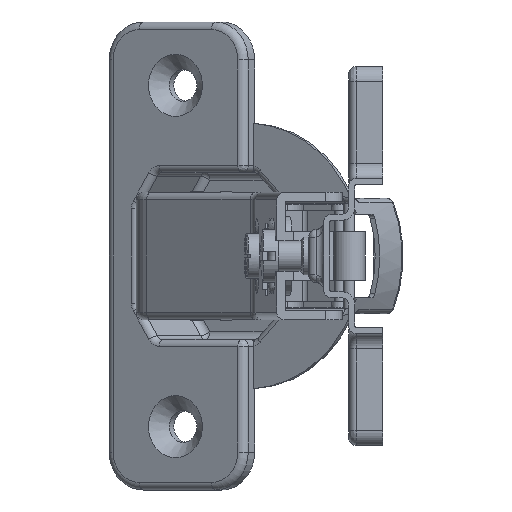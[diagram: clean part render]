
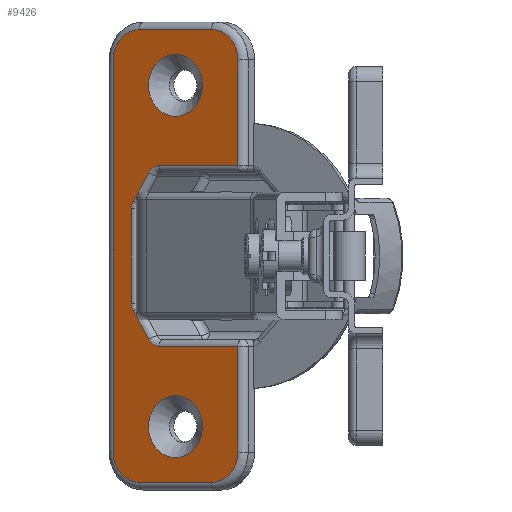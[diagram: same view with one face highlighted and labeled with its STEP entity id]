
A CAD part, left-side view. The second image highlights one B-rep face of the part: STEP entity #9426.
In plain terms, the highlighted planar face has unit normal (-0.866, 0.5, 0) as drawn and (0.73, 0.683, 0) by its records, which use the part's own axes.
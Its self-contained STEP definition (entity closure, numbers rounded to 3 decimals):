
#772=LINE('',#16472,#1455);
#774=LINE('',#16484,#1457);
#776=LINE('',#16496,#1459);
#778=LINE('',#16508,#1461);
#780=LINE('',#16520,#1463);
#803=LINE('',#16591,#1486);
#864=LINE('',#16923,#1547);
#865=LINE('',#16934,#1548);
#867=LINE('',#16946,#1550);
#869=LINE('',#16958,#1552);
#1455=VECTOR('',#12663,11.944);
#1457=VECTOR('',#12677,4.459);
#1459=VECTOR('',#12691,12.429);
#1461=VECTOR('',#12705,4.459);
#1463=VECTOR('',#12719,11.944);
#1486=VECTOR('',#12788,13.95);
#1547=VECTOR('',#13167,13.95);
#1548=VECTOR('',#13180,11.);
#1550=VECTOR('',#13194,51.7);
#1552=VECTOR('',#13208,11.);
#1806=PLANE('',#10507);
#1882=FACE_BOUND('',#2989,.T.);
#1883=FACE_BOUND('',#2990,.T.);
#2395=FACE_OUTER_BOUND('',#2988,.T.);
#2988=EDGE_LOOP('',(#8128,#8129,#8130,#8131,#8132,#8133,#8134,#8135,#8136,
#8137,#8138,#8139,#8140,#8141,#8142,#8143,#8144,#8145));
#2989=EDGE_LOOP('',(#8146));
#2990=EDGE_LOOP('',(#8147));
#3464=CIRCLE('',#10265,1.9);
#3468=CIRCLE('',#10271,1.9);
#3472=CIRCLE('',#10277,1.9);
#3476=CIRCLE('',#10283,1.9);
#3567=CIRCLE('',#10471,4.);
#3571=CIRCLE('',#10477,4.);
#3575=CIRCLE('',#10483,4.);
#3578=CIRCLE('',#10488,4.);
#3588=CIRCLE('',#10508,4.1);
#3589=CIRCLE('',#10509,4.1);
#4259=VERTEX_POINT('',#16465);
#4261=VERTEX_POINT('',#16470);
#4263=VERTEX_POINT('',#16476);
#4265=VERTEX_POINT('',#16482);
#4267=VERTEX_POINT('',#16488);
#4269=VERTEX_POINT('',#16494);
#4271=VERTEX_POINT('',#16500);
#4273=VERTEX_POINT('',#16506);
#4275=VERTEX_POINT('',#16512);
#4277=VERTEX_POINT('',#16518);
#4293=VERTEX_POINT('',#16590);
#4348=VERTEX_POINT('',#16921);
#4350=VERTEX_POINT('',#16926);
#4352=VERTEX_POINT('',#16932);
#4354=VERTEX_POINT('',#16938);
#4356=VERTEX_POINT('',#16944);
#4358=VERTEX_POINT('',#16950);
#4360=VERTEX_POINT('',#16956);
#4374=VERTEX_POINT('',#17008);
#4375=VERTEX_POINT('',#17010);
#5412=EDGE_CURVE('',#4261,#4259,#772,.T.);
#5415=EDGE_CURVE('',#4263,#4261,#3464,.T.);
#5418=EDGE_CURVE('',#4265,#4263,#774,.T.);
#5421=EDGE_CURVE('',#4267,#4265,#3468,.T.);
#5424=EDGE_CURVE('',#4269,#4267,#776,.T.);
#5427=EDGE_CURVE('',#4271,#4269,#3472,.T.);
#5430=EDGE_CURVE('',#4273,#4271,#778,.T.);
#5433=EDGE_CURVE('',#4275,#4273,#3476,.T.);
#5436=EDGE_CURVE('',#4277,#4275,#780,.T.);
#5469=EDGE_CURVE('',#4259,#4293,#803,.T.);
#5611=EDGE_CURVE('',#4348,#4277,#864,.T.);
#5613=EDGE_CURVE('',#4350,#4348,#3567,.T.);
#5616=EDGE_CURVE('',#4352,#4350,#865,.T.);
#5619=EDGE_CURVE('',#4354,#4352,#3571,.T.);
#5622=EDGE_CURVE('',#4356,#4354,#867,.T.);
#5625=EDGE_CURVE('',#4358,#4356,#3575,.T.);
#5628=EDGE_CURVE('',#4360,#4358,#869,.T.);
#5630=EDGE_CURVE('',#4293,#4360,#3578,.T.);
#5654=EDGE_CURVE('',#4374,#4374,#3588,.T.);
#5655=EDGE_CURVE('',#4375,#4375,#3589,.T.);
#8128=ORIENTED_EDGE('',*,*,#5436,.F.);
#8129=ORIENTED_EDGE('',*,*,#5611,.F.);
#8130=ORIENTED_EDGE('',*,*,#5613,.F.);
#8131=ORIENTED_EDGE('',*,*,#5616,.F.);
#8132=ORIENTED_EDGE('',*,*,#5619,.F.);
#8133=ORIENTED_EDGE('',*,*,#5622,.F.);
#8134=ORIENTED_EDGE('',*,*,#5625,.F.);
#8135=ORIENTED_EDGE('',*,*,#5628,.F.);
#8136=ORIENTED_EDGE('',*,*,#5630,.F.);
#8137=ORIENTED_EDGE('',*,*,#5469,.F.);
#8138=ORIENTED_EDGE('',*,*,#5412,.F.);
#8139=ORIENTED_EDGE('',*,*,#5415,.F.);
#8140=ORIENTED_EDGE('',*,*,#5418,.F.);
#8141=ORIENTED_EDGE('',*,*,#5421,.F.);
#8142=ORIENTED_EDGE('',*,*,#5424,.F.);
#8143=ORIENTED_EDGE('',*,*,#5427,.F.);
#8144=ORIENTED_EDGE('',*,*,#5430,.F.);
#8145=ORIENTED_EDGE('',*,*,#5433,.F.);
#8146=ORIENTED_EDGE('',*,*,#5654,.T.);
#8147=ORIENTED_EDGE('',*,*,#5655,.T.);
#9426=ADVANCED_FACE('',(#2395,#1882,#1883),#1806,.T.);
#10265=AXIS2_PLACEMENT_3D('',#16478,#12669,#12670);
#10271=AXIS2_PLACEMENT_3D('',#16490,#12683,#12684);
#10277=AXIS2_PLACEMENT_3D('',#16502,#12697,#12698);
#10283=AXIS2_PLACEMENT_3D('',#16514,#12711,#12712);
#10471=AXIS2_PLACEMENT_3D('',#16928,#13172,#13173);
#10477=AXIS2_PLACEMENT_3D('',#16940,#13186,#13187);
#10483=AXIS2_PLACEMENT_3D('',#16952,#13200,#13201);
#10488=AXIS2_PLACEMENT_3D('',#16961,#13212,#13213);
#10507=AXIS2_PLACEMENT_3D('',#17007,#13264,#13265);
#10508=AXIS2_PLACEMENT_3D('',#17009,#13266,#13267);
#10509=AXIS2_PLACEMENT_3D('',#17011,#13268,#13269);
#12663=DIRECTION('',(-0.683,0.73,0.));
#12669=DIRECTION('center_axis',(0.73,0.683,0.));
#12670=DIRECTION('ref_axis',(0.332,-0.355,-0.874));
#12677=DIRECTION('',(-0.361,0.386,-0.849));
#12683=DIRECTION('center_axis',(0.73,0.683,0.));
#12684=DIRECTION('ref_axis',(0.657,-0.702,-0.275));
#12691=DIRECTION('',(0.,0.,-1.));
#12697=DIRECTION('center_axis',(0.73,0.683,0.));
#12698=DIRECTION('ref_axis',(0.657,-0.702,0.275));
#12705=DIRECTION('',(0.361,-0.386,-0.849));
#12711=DIRECTION('center_axis',(0.73,0.683,0.));
#12712=DIRECTION('ref_axis',(0.332,-0.355,0.874));
#12719=DIRECTION('',(0.683,-0.73,0.));
#12788=DIRECTION('',(0.,0.,-1.));
#13167=DIRECTION('',(0.,0.,-1.));
#13172=DIRECTION('center_axis',(-0.73,-0.683,0.));
#13173=DIRECTION('ref_axis',(-0.483,0.516,0.707));
#13180=DIRECTION('',(-0.683,0.73,0.));
#13186=DIRECTION('center_axis',(-0.73,-0.683,0.));
#13187=DIRECTION('ref_axis',(0.483,-0.516,0.707));
#13194=DIRECTION('',(0.,0.,1.));
#13200=DIRECTION('center_axis',(-0.73,-0.683,0.));
#13201=DIRECTION('ref_axis',(0.483,-0.516,-0.707));
#13208=DIRECTION('',(0.683,-0.73,0.));
#13212=DIRECTION('center_axis',(-0.73,-0.683,0.));
#13213=DIRECTION('ref_axis',(-0.483,0.516,-0.707));
#13264=DIRECTION('center_axis',(0.73,0.683,0.));
#13265=DIRECTION('ref_axis',(-0.683,0.73,0.));
#13266=DIRECTION('center_axis',(-0.73,-0.683,0.));
#13267=DIRECTION('ref_axis',(0.,0.,-1.));
#13268=DIRECTION('center_axis',(-0.73,-0.683,0.));
#13269=DIRECTION('ref_axis',(0.,0.,-1.));
#16465=CARTESIAN_POINT('',(69.255,-25.59,-11.9));
#16470=CARTESIAN_POINT('',(77.415,-34.313,-11.9));
#16472=CARTESIAN_POINT('',(75.745,-32.528,-11.9));
#16476=CARTESIAN_POINT('',(78.517,-35.491,-11.004));
#16478=CARTESIAN_POINT('Origin',(77.415,-34.313,-10.));
#16482=CARTESIAN_POINT('',(80.126,-37.212,-7.218));
#16484=CARTESIAN_POINT('',(80.717,-37.843,-5.828));
#16488=CARTESIAN_POINT('',(80.322,-37.421,-6.214));
#16490=CARTESIAN_POINT('Origin',(79.024,-36.033,-6.214));
#16494=CARTESIAN_POINT('',(80.322,-37.421,6.214));
#16496=CARTESIAN_POINT('',(80.322,-37.421,-3.25));
#16500=CARTESIAN_POINT('',(80.126,-37.212,7.218));
#16502=CARTESIAN_POINT('Origin',(79.024,-36.033,6.214));
#16506=CARTESIAN_POINT('',(78.517,-35.491,11.004));
#16508=CARTESIAN_POINT('',(81.673,-38.865,3.578));
#16512=CARTESIAN_POINT('',(77.415,-34.313,11.9));
#16514=CARTESIAN_POINT('Origin',(77.415,-34.313,10.));
#16518=CARTESIAN_POINT('',(69.255,-25.59,11.9));
#16520=CARTESIAN_POINT('',(80.356,-37.458,11.9));
#16590=CARTESIAN_POINT('',(69.255,-25.59,-25.85));
#16591=CARTESIAN_POINT('',(69.255,-25.59,0.));
#16921=CARTESIAN_POINT('',(69.255,-25.59,25.85));
#16923=CARTESIAN_POINT('',(69.255,-25.59,0.));
#16926=CARTESIAN_POINT('',(71.988,-28.511,29.85));
#16928=CARTESIAN_POINT('Origin',(71.988,-28.511,25.85));
#16932=CARTESIAN_POINT('',(79.502,-36.545,29.85));
#16934=CARTESIAN_POINT('',(76.406,-33.235,29.85));
#16938=CARTESIAN_POINT('',(82.235,-39.466,25.85));
#16940=CARTESIAN_POINT('Origin',(79.502,-36.545,25.85));
#16944=CARTESIAN_POINT('',(82.235,-39.466,-25.85));
#16946=CARTESIAN_POINT('',(82.235,-39.466,0.));
#16950=CARTESIAN_POINT('',(79.502,-36.545,-29.85));
#16952=CARTESIAN_POINT('Origin',(79.502,-36.545,-25.85));
#16956=CARTESIAN_POINT('',(71.988,-28.511,-29.85));
#16958=CARTESIAN_POINT('',(76.406,-33.235,-29.85));
#16961=CARTESIAN_POINT('Origin',(71.988,-28.511,-25.85));
#17007=CARTESIAN_POINT('Origin',(82.918,-40.196,0.));
#17008=CARTESIAN_POINT('',(75.745,-32.528,-26.6));
#17009=CARTESIAN_POINT('Origin',(75.745,-32.528,-22.5));
#17010=CARTESIAN_POINT('',(75.745,-32.528,18.4));
#17011=CARTESIAN_POINT('Origin',(75.745,-32.528,22.5));
